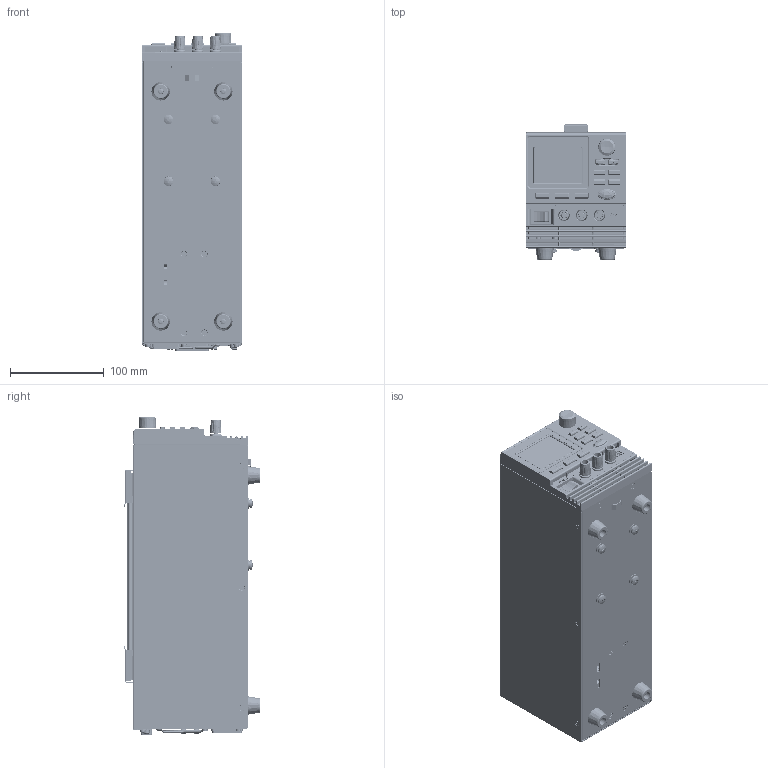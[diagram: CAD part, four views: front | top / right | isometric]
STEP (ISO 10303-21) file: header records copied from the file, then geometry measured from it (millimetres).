
FILE_DESCRIPTION((''),'2;1');
FILE_NAME('GPP-100W_ASM_5_ASM_1_ASM_1_ASM','2025-05-06T16:52:47',('user'),(''),'CREO PARAMETRIC BY PTC INC, 2019010','CREO PARAMETRIC BY PTC INC, 2019010','');
FILE_SCHEMA(('CONFIG_CONTROL_DESIGN'));
Products named in the file (82): 63FP-AG116001_3_1_1; 63FP-AG116001_ASM_1_ASM_1_ASM_1_ASM; SW-POWER-03_1_1_1; 57RB-40G18601_2_1_1; 51GP-13230401_1_1_1; 51PP-12050101_2_1_1; 51PP-12050301_2_1_1; GPP-100W_KEYBOARD_PCB_ASM_2_ASM; GPP-100W_KEYBOARD_PCB_ASM_ASM_2_ASM; 5005-180G0301_1_1_1; GPP-100W_FRONT_ASM-A_ASM_3_ASM__ASM; 62PP-123FP101_2_1_1; SO-M3-15D3_1_1_1; 62PP-123FP101_ASM_3_ASM_1_ASM_1_ASM; GPX-100W_FP_ASM_ASM_1_ASM_1_ASM_ASM; GPP-100W_142V-02P_1_1_1; GPP-100W_142V-02P-PCB-1_ASM_2_A_ASM; GPP-100W_OUTPUT-PCB_ASM_2_ASM_1_ASM; BODY_B_1_1_1; SHIFT_1_1_1; KNOB_1_1_1; INSERT_1_1_1; KNOB_ASM_1_ASM_1_ASM_1_ASM; 44BJ-01102301_ASM_1_ASM_1_ASM_1_ASM; BODY_1_1_1; 44BJ-51101001_ASM_1_ASM_1_ASM_1_ASM; BODY_R_1_1_1; 44BJ-21102201_ASM_1_ASM_1_ASM_1_ASM; GPP-100W_FRONT_ASM_ASM_4_ASM_1__ASM; 62PP-123LO101_6_1_1; GPP-100W_TUDIAN_FP_1_1_1; GPP-100W_TUDIAN_RP_1_1_1; BSO-M3-14_2_1_1; FH-M4-10_1_1_1; 62PP-123LO101_ASM_4_ASM_1_ASM_1_ASM; 57FC-10B0100_GL-4L-B_1_1_1; BMS-W-3X12_12_1_1; GPP-100W_LO_ASM_ASM_5_ASM_1_ASM_ASM; GPP-100W_HS_ASM__ASM_7_ASM_1_1; BOX-HEADER_3012_1_1_1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
Assembly tree (130 placements, depth 5):
  GPP-100W_ASM_5_ASM_1_ASM_1_ASM
    GPP-100W_FRONT_ASM_ASM_4_ASM_1__ASM
      GPP-100W_FRONT_ASM-A_ASM_3_ASM__ASM
        63FP-AG116001_ASM_1_ASM_1_ASM_1_ASM
          63FP-AG116001_3_1_1
        SW-POWER-03_1_1_1
        57RB-40G18601_2_1_1
        51GP-13230401_1_1_1
        51PP-12050101_2_1_1
        51PP-12050301_2_1_1
        GPP-100W_KEYBOARD_PCB_ASM_ASM_2_ASM
          GPP-100W_KEYBOARD_PCB_ASM_2_ASM
        5005-180G0301_1_1_1
      GPX-100W_FP_ASM_ASM_1_ASM_1_ASM_ASM
        62PP-123FP101_ASM_3_ASM_1_ASM_1_ASM
          62PP-123FP101_2_1_1
          SO-M3-15D3_1_1_1
      GPP-100W_OUTPUT-PCB_ASM_2_ASM_1_ASM
        GPP-100W_142V-02P-PCB-1_ASM_2_A_ASM
          GPP-100W_142V-02P_1_1_1
      44BJ-01102301_ASM_1_ASM_1_ASM_1_ASM
        BODY_B_1_1_1
        SHIFT_1_1_1
        KNOB_ASM_1_ASM_1_ASM_1_ASM
          KNOB_1_1_1
          INSERT_1_1_1
      44BJ-51101001_ASM_1_ASM_1_ASM_1_ASM
        BODY_1_1_1
        SHIFT_1_1_1
        KNOB_ASM_1_ASM_1_ASM_1_ASM
          KNOB_1_1_1
          INSERT_1_1_1
      44BJ-21102201_ASM_1_ASM_1_ASM_1_ASM
        BODY_R_1_1_1
        SHIFT_1_1_1
        KNOB_ASM_1_ASM_1_ASM_1_ASM
          KNOB_1_1_1
          INSERT_1_1_1
    GPP-100W_LO_ASM__ASM_5_ASM_1_AS_ASM
      GPP-100W_LO_ASM_ASM_5_ASM_1_ASM_ASM
        62PP-123LO101_ASM_4_ASM_1_ASM_1_ASM
          62PP-123LO101_6_1_1
          GPP-100W_TUDIAN_FP_1_1_1  x2
          GPP-100W_TUDIAN_RP_1_1_1  x2
          BSO-M3-14_2_1_1  x2
          FH-M4-10_1_1_1
        57FC-10B0100_GL-4L-B_1_1_1  x4
        BMS-W-3X12_12_1_1  x4
      GPP-100W_CONTROL-PCB_ASM_ASM_8__ASM
        GPP-100W_HS_ASM__ASM_7_ASM_1_1
        GPP-100W_CONTROL-PCB_ASM_5_ASM__ASM
          BOX-HEADER_3012_1_1_1
          SMA0001_1_1_1  x2
      GPP-100W_CPU-PCB_ASM_ASM_3_ASM__ASM
        GPP-100W_CPU-PCB_ASM_4_ASM_1_AS_ASM
          USB2_1_1_1
          USB_1_1_1
          RJ-45-TAB-UP_1_1_1
      GPP-100W_GPIB-PCB_ASM_ASM_2_ASM_ASM
        SOCKET-GPIB-NEW_ASM_ASM_1_ASM_1_ASM
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Bounding box: 107 x 145.64 x 340.6 mm (x, y, z)
Volume: 340837.3 mm3; surface area: 519580.6 mm2
Topology: 101 solids, 101 shells, 6653 faces, 17135 edges, 10912 vertices
Faces by surface type: plane 3591, cylinder 1842, cone 651, torus 268, bspline 221, sphere 62, extrusion 18
Entity records: 172955 total; most frequent: CARTESIAN_POINT 44571, ORIENTED_EDGE 26562, DIRECTION 26295, EDGE_CURVE 13281, AXIS2_PLACEMENT_3D 8925, VERTEX_POINT 8462, VECTOR 8445, LINE 8439
